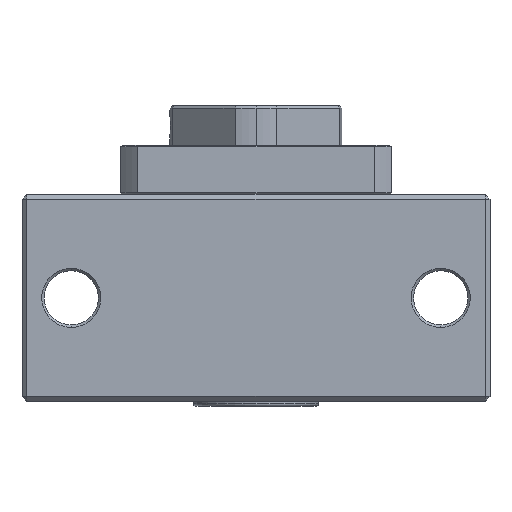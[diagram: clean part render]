
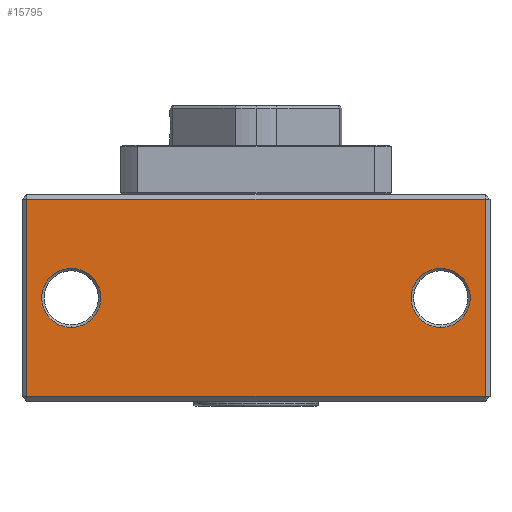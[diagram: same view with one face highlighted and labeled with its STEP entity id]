
A CAD part, front view. The second image highlights one B-rep face of the part: STEP entity #15795.
In plain terms, the highlighted planar face has unit normal (0, -1, 0).
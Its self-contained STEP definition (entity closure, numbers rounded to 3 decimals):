
#716 = DIRECTION ( 'NONE',  ( -1., 0., 0. ) ) ;
#718 = DIRECTION ( 'NONE',  ( 0., 1., 0. ) ) ;
#719 = CARTESIAN_POINT ( 'NONE',  ( 37.5, 0., 0. ) ) ;
#720 = AXIS2_PLACEMENT_3D ( 'NONE', #719, #718, #716 ) ;
#721 = CIRCLE ( 'NONE', #720, 6. ) ;
#724 = CARTESIAN_POINT ( 'NONE',  ( 37.5, 0., -6. ) ) ;
#781 = DIRECTION ( 'NONE',  ( -1., 0., 0. ) ) ;
#784 = DIRECTION ( 'NONE',  ( 0., 1., 0. ) ) ;
#785 = CARTESIAN_POINT ( 'NONE',  ( -37.5, 0., 0. ) ) ;
#787 = AXIS2_PLACEMENT_3D ( 'NONE', #785, #784, #781 ) ;
#789 = CIRCLE ( 'NONE', #787, 6. ) ;
#793 = CARTESIAN_POINT ( 'NONE',  ( -37.5, 0., 6. ) ) ;
#870 = DIRECTION ( 'NONE',  ( -1., 0., 0. ) ) ;
#872 = DIRECTION ( 'NONE',  ( 0., 1., 0. ) ) ;
#875 = AXIS2_PLACEMENT_3D ( 'NONE', #883, #872, #870 ) ;
#877 = CIRCLE ( 'NONE', #875, 6. ) ;
#880 = DIRECTION ( 'NONE',  ( -1., 0., 0. ) ) ;
#881 = DIRECTION ( 'NONE',  ( 0., 1., 0. ) ) ;
#882 = AXIS2_PLACEMENT_3D ( 'NONE', #888, #881, #880 ) ;
#883 = CARTESIAN_POINT ( 'NONE',  ( -37.5, 0., 0. ) ) ;
#888 = CARTESIAN_POINT ( 'NONE',  ( -47.5, 0., 21. ) ) ;
#890 = PLANE ( 'NONE',  #882 ) ;
#891 = FACE_OUTER_BOUND ( 'NONE', #15580, .T. ) ;
#892 = FACE_BOUND ( 'NONE', #15576, .T. ) ;
#893 = FACE_BOUND ( 'NONE', #15796, .T. ) ;
#2175 = DIRECTION ( 'NONE',  ( -1., 0., 0. ) ) ;
#2176 = VECTOR ( 'NONE', #2175, 1000. ) ;
#2177 = CARTESIAN_POINT ( 'NONE',  ( -47.5, 0., 20. ) ) ;
#2178 = LINE ( 'NONE', #2177, #2176 ) ;
#2179 = CARTESIAN_POINT ( 'NONE',  ( 46.5, 0., 20. ) ) ;
#12104 = LINE ( 'NONE', #12111, #12105 ) ;
#12105 = VECTOR ( 'NONE', #12108, 1000. ) ;
#12108 = DIRECTION ( 'NONE',  ( 0., 0., 1. ) ) ;
#12111 = CARTESIAN_POINT ( 'NONE',  ( 46.5, 0., 21. ) ) ;
#12413 = CARTESIAN_POINT ( 'NONE',  ( 46.5, 0., -20. ) ) ;
#12414 = DIRECTION ( 'NONE',  ( 1., 0., 0. ) ) ;
#12415 = VECTOR ( 'NONE', #12414, 1000. ) ;
#12416 = CARTESIAN_POINT ( 'NONE',  ( -47.5, 0., -20. ) ) ;
#12417 = LINE ( 'NONE', #12416, #12415 ) ;
#12418 = CARTESIAN_POINT ( 'NONE',  ( -46.5, 0., -20. ) ) ;
#12419 = CARTESIAN_POINT ( 'NONE',  ( -46.5, 0., 20. ) ) ;
#12420 = DIRECTION ( 'NONE',  ( 0., 0., -1. ) ) ;
#12421 = VECTOR ( 'NONE', #12420, 1000. ) ;
#12422 = CARTESIAN_POINT ( 'NONE',  ( -46.5, 0., 21. ) ) ;
#12423 = LINE ( 'NONE', #12422, #12421 ) ;
#12424 = DIRECTION ( 'NONE',  ( -1., 0., 0. ) ) ;
#12425 = DIRECTION ( 'NONE',  ( 0., 1., 0. ) ) ;
#12426 = CARTESIAN_POINT ( 'NONE',  ( 37.5, 0., 0. ) ) ;
#12427 = AXIS2_PLACEMENT_3D ( 'NONE', #12426, #12425, #12424 ) ;
#12432 = CIRCLE ( 'NONE', #12427, 6. ) ;
#12631 = CARTESIAN_POINT ( 'NONE',  ( 37.5, 0., 6. ) ) ;
#12699 = CARTESIAN_POINT ( 'NONE',  ( -37.5, 0., -6. ) ) ;
#15576 = EDGE_LOOP ( 'NONE', ( #15577, #15578 ) ) ;
#15577 = ORIENTED_EDGE ( 'NONE', *, *, #15738, .T. ) ;
#15578 = ORIENTED_EDGE ( 'NONE', *, *, #15579, .T. ) ;
#15579 = EDGE_CURVE ( 'NONE', #15655, #15736, #12432, .T. ) ;
#15580 = EDGE_LOOP ( 'NONE', ( #15581, #15585, #15588, #15894 ) ) ;
#15581 = ORIENTED_EDGE ( 'NONE', *, *, #15582, .T. ) ;
#15582 = EDGE_CURVE ( 'NONE', #15583, #15584, #12423, .T. ) ;
#15583 = VERTEX_POINT ( 'NONE', #12419 ) ;
#15584 = VERTEX_POINT ( 'NONE', #12418 ) ;
#15585 = ORIENTED_EDGE ( 'NONE', *, *, #15586, .T. ) ;
#15586 = EDGE_CURVE ( 'NONE', #15584, #15587, #12417, .T. ) ;
#15587 = VERTEX_POINT ( 'NONE', #12413 ) ;
#15588 = ORIENTED_EDGE ( 'NONE', *, *, #15589, .T. ) ;
#15589 = EDGE_CURVE ( 'NONE', #15587, #15893, #12104, .T. ) ;
#15655 = VERTEX_POINT ( 'NONE', #12631 ) ;
#15684 = VERTEX_POINT ( 'NONE', #12699 ) ;
#15736 = VERTEX_POINT ( 'NONE', #724 ) ;
#15738 = EDGE_CURVE ( 'NONE', #15736, #15655, #721, .T. ) ;
#15749 = VERTEX_POINT ( 'NONE', #793 ) ;
#15751 = EDGE_CURVE ( 'NONE', #15684, #15749, #789, .T. ) ;
#15795 = ADVANCED_FACE ( 'NONE', ( #893, #892, #891 ), #890, .F. ) ;
#15796 = EDGE_LOOP ( 'NONE', ( #15797, #15798 ) ) ;
#15797 = ORIENTED_EDGE ( 'NONE', *, *, #15751, .T. ) ;
#15798 = ORIENTED_EDGE ( 'NONE', *, *, #15799, .T. ) ;
#15799 = EDGE_CURVE ( 'NONE', #15749, #15684, #877, .T. ) ;
#15893 = VERTEX_POINT ( 'NONE', #2179 ) ;
#15894 = ORIENTED_EDGE ( 'NONE', *, *, #15895, .T. ) ;
#15895 = EDGE_CURVE ( 'NONE', #15893, #15583, #2178, .T. ) ;
